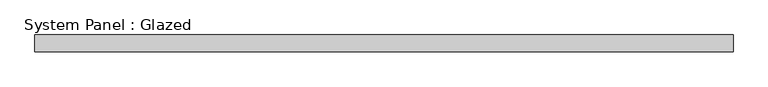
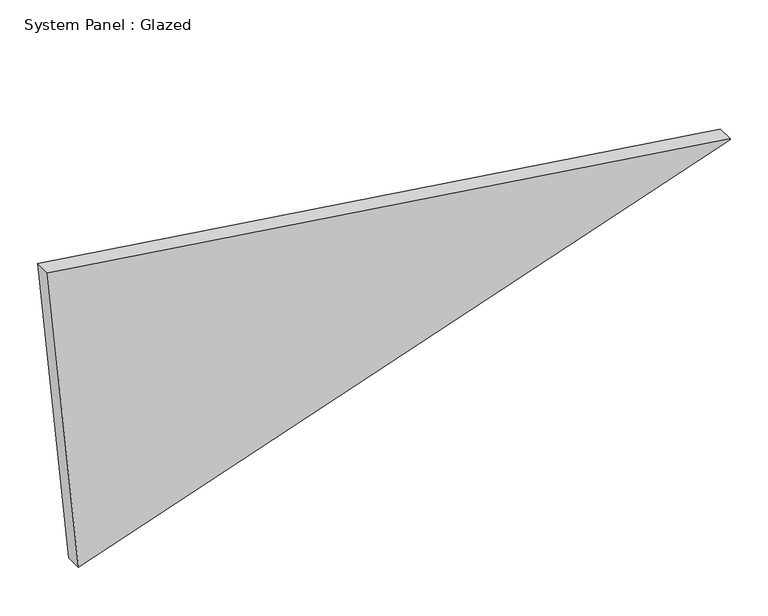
"""IFC4 building model written with IfcOpenShell, lengths in millimetres: plate geometry, System Panel : Glazed."""

from ifc_helpers import new_model, si_unit, frame, origin, place, context, project, spatial, polyline, outline, extrude, source, transform, mapped, element, save


def system_panel_glazed_f9e7ae01(model_context):
    return source(origin(), model_context, "Body", "SweptSolid", [
        extrude(outline(polyline([(0.0, -473.8822224), (342.7336732, 520.9586067), (343.925589, 520.8444774), (491.6448498, -520.9586067), (0.0, -473.8822224)])), frame((0.0, -44.45, 0.0), z_axis=(0.0, 1.0, 0.0), x_axis=(0.0, 0.0, 1.0)), (0.0, 0.0, 1.0), 25.4),
    ])


if __name__ == "__main__":
    model = new_model("IFC4")
    model_context = context("Model", 3, world=origin())
    ifc_project = project(units=[si_unit("LENGTHUNIT", "METRE", prefix="MILLI")], contexts=[model_context])
    site = spatial("IfcSite", under=ifc_project)
    building = spatial("IfcBuilding", under=site)
    placement = place(None, origin())
    system_panel_glazed_shape = system_panel_glazed_f9e7ae01(model_context)
    element("IfcPlate", 1, ObjectType="System Panel : Glazed", at=placement, inside=building, context=model_context, shape_type="MappedRepresentation", body=[
        mapped(system_panel_glazed_shape, transform((0.0, 0.0, 0.0), x_axis=(1.0, 0.0, 0.0), y_axis=(0.0, 1.0, 0.0), z_axis=(0.0, 0.0, 1.0))),
    ])
    save(model, "model.ifc")
